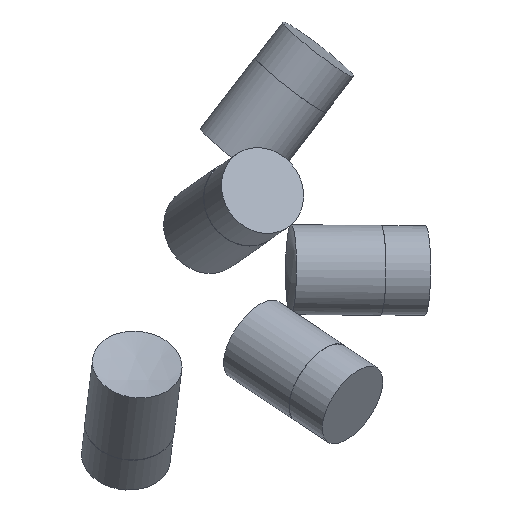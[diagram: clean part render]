
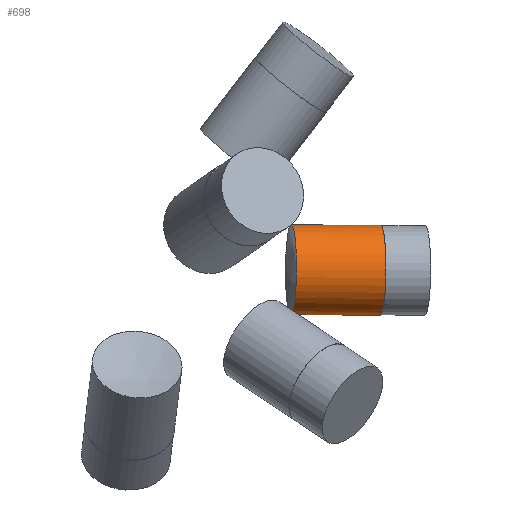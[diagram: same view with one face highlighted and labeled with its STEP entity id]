
A CAD part, front view. The second image highlights one B-rep face of the part: STEP entity #698.
In plain terms, the highlighted cylindrical face has radius 6 mm (diameter 12 mm), a full revolution.
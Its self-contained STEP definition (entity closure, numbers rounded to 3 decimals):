
#33 = SPHERICAL_SURFACE('',#34,20.);
#34 = AXIS2_PLACEMENT_3D('',#35,#36,#37);
#35 = CARTESIAN_POINT('',(0.,0.,0.));
#36 = DIRECTION('',(0.,0.,1.));
#37 = DIRECTION('',(1.,0.,-0.));
#110 = VERTEX_POINT('',#111);
#111 = CARTESIAN_POINT('',(19.256,0.,
    5.403));
#133 = EDGE_CURVE('',#134,#110,#136,.T.);
#134 = VERTEX_POINT('',#135);
#135 = CARTESIAN_POINT('',(18.198,8.296,-0.112)
  );
#136 = SURFACE_CURVE('',#137,(#142,#162),.PCURVE_S1.);
#137 = CIRCLE('',#138,6.);
#138 = AXIS2_PLACEMENT_3D('',#139,#140,#141);
#139 = CARTESIAN_POINT('',(18.934,2.341,
    -0.112));
#140 = DIRECTION('',(0.992,0.123,-0.006)
  );
#141 = DIRECTION('',(-0.123,0.992,0.));
#142 = PCURVE('',#33,#143);
#143 = DEFINITIONAL_REPRESENTATION('',(#144),#161);
#144 = B_SPLINE_CURVE_WITH_KNOTS('',8,(#145,#146,#147,#148,#149,#150,
    #151,#152,#153,#154,#155,#156,#157,#158,#159,#160),.UNSPECIFIED.,.F.
  ,.F.,(9,7,9),(0.,0.988,1.976),.UNSPECIFIED.);
#145 = CARTESIAN_POINT('',(0.428,-0.006));
#146 = CARTESIAN_POINT('',(0.428,0.031));
#147 = CARTESIAN_POINT('',(0.423,0.068));
#148 = CARTESIAN_POINT('',(0.413,0.105));
#149 = CARTESIAN_POINT('',(0.398,0.139));
#150 = CARTESIAN_POINT('',(0.378,0.172));
#151 = CARTESIAN_POINT('',(0.354,0.201));
#152 = CARTESIAN_POINT('',(0.326,0.226));
#153 = CARTESIAN_POINT('',(0.263,0.268));
#154 = CARTESIAN_POINT('',(0.228,0.285));
#155 = CARTESIAN_POINT('',(0.191,0.297));
#156 = CARTESIAN_POINT('',(0.152,0.303));
#157 = CARTESIAN_POINT('',(0.112,0.304));
#158 = CARTESIAN_POINT('',(0.073,0.299));
#159 = CARTESIAN_POINT('',(0.035,0.289));
#160 = CARTESIAN_POINT('',(0.,0.274));
#161 = ( GEOMETRIC_REPRESENTATION_CONTEXT(2) 
PARAMETRIC_REPRESENTATION_CONTEXT() REPRESENTATION_CONTEXT('2D SPACE',''
  ) );
#162 = PCURVE('',#163,#168);
#163 = CYLINDRICAL_SURFACE('',#164,6.);
#164 = AXIS2_PLACEMENT_3D('',#165,#166,#167);
#165 = CARTESIAN_POINT('',(0.,0.,0.));
#166 = DIRECTION('',(0.992,0.123,-0.006)
  );
#167 = DIRECTION('',(-0.123,0.992,0.));
#168 = DEFINITIONAL_REPRESENTATION('',(#169),#173);
#169 = LINE('',#170,#171);
#170 = CARTESIAN_POINT('',(0.,19.079));
#171 = VECTOR('',#172,1.);
#172 = DIRECTION('',(1.,0.));
#173 = ( GEOMETRIC_REPRESENTATION_CONTEXT(2) 
PARAMETRIC_REPRESENTATION_CONTEXT() REPRESENTATION_CONTEXT('2D SPACE',''
  ) );
#175 = EDGE_CURVE('',#176,#134,#178,.T.);
#176 = VERTEX_POINT('',#177);
#177 = CARTESIAN_POINT('',(19.191,0.,
    -5.631));
#178 = SURFACE_CURVE('',#179,(#184,#204),.PCURVE_S1.);
#179 = CIRCLE('',#180,6.);
#180 = AXIS2_PLACEMENT_3D('',#181,#182,#183);
#181 = CARTESIAN_POINT('',(18.934,2.341,
    -0.112));
#182 = DIRECTION('',(0.992,0.123,-0.006)
  );
#183 = DIRECTION('',(-0.123,0.992,0.));
#184 = PCURVE('',#33,#185);
#185 = DEFINITIONAL_REPRESENTATION('',(#186),#203);
#186 = B_SPLINE_CURVE_WITH_KNOTS('',8,(#187,#188,#189,#190,#191,#192,
    #193,#194,#195,#196,#197,#198,#199,#200,#201,#202),.UNSPECIFIED.,.F.
  ,.F.,(9,7,9),(4.309,5.296,6.283),
  .UNSPECIFIED.);
#187 = CARTESIAN_POINT('',(0.,-0.285));
#188 = CARTESIAN_POINT('',(0.035,-0.301));
#189 = CARTESIAN_POINT('',(0.073,-0.311));
#190 = CARTESIAN_POINT('',(0.112,-0.316));
#191 = CARTESIAN_POINT('',(0.152,-0.315));
#192 = CARTESIAN_POINT('',(0.191,-0.308));
#193 = CARTESIAN_POINT('',(0.229,-0.297));
#194 = CARTESIAN_POINT('',(0.263,-0.28));
#195 = CARTESIAN_POINT('',(0.326,-0.238));
#196 = CARTESIAN_POINT('',(0.354,-0.212));
#197 = CARTESIAN_POINT('',(0.379,-0.183));
#198 = CARTESIAN_POINT('',(0.398,-0.151));
#199 = CARTESIAN_POINT('',(0.413,-0.116));
#200 = CARTESIAN_POINT('',(0.423,-0.08));
#201 = CARTESIAN_POINT('',(0.428,-0.043));
#202 = CARTESIAN_POINT('',(0.428,-0.006));
#203 = ( GEOMETRIC_REPRESENTATION_CONTEXT(2) 
PARAMETRIC_REPRESENTATION_CONTEXT() REPRESENTATION_CONTEXT('2D SPACE',''
  ) );
#204 = PCURVE('',#163,#205);
#205 = DEFINITIONAL_REPRESENTATION('',(#206),#210);
#206 = LINE('',#207,#208);
#207 = CARTESIAN_POINT('',(0.,19.079));
#208 = VECTOR('',#209,1.);
#209 = DIRECTION('',(1.,0.));
#210 = ( GEOMETRIC_REPRESENTATION_CONTEXT(2) 
PARAMETRIC_REPRESENTATION_CONTEXT() REPRESENTATION_CONTEXT('2D SPACE',''
  ) );
#237 = EDGE_CURVE('',#110,#176,#238,.T.);
#238 = SURFACE_CURVE('',#239,(#244,#264),.PCURVE_S1.);
#239 = CIRCLE('',#240,6.);
#240 = AXIS2_PLACEMENT_3D('',#241,#242,#243);
#241 = CARTESIAN_POINT('',(18.934,2.341,
    -0.112));
#242 = DIRECTION('',(0.992,0.123,-0.006)
  );
#243 = DIRECTION('',(-0.123,0.992,0.));
#244 = PCURVE('',#33,#245);
#245 = DEFINITIONAL_REPRESENTATION('',(#246),#263);
#246 = B_SPLINE_CURVE_WITH_KNOTS('',8,(#247,#248,#249,#250,#251,#252,
    #253,#254,#255,#256,#257,#258,#259,#260,#261,#262),.UNSPECIFIED.,.F.
  ,.F.,(9,7,9),(1.976,3.142,4.309),
  .UNSPECIFIED.);
#247 = CARTESIAN_POINT('',(6.283,0.274));
#248 = CARTESIAN_POINT('',(6.242,0.256));
#249 = CARTESIAN_POINT('',(6.204,0.231));
#250 = CARTESIAN_POINT('',(6.17,0.2));
#251 = CARTESIAN_POINT('',(6.143,0.164));
#252 = CARTESIAN_POINT('',(6.122,0.124));
#253 = CARTESIAN_POINT('',(6.109,0.082));
#254 = CARTESIAN_POINT('',(6.102,0.038));
#255 = CARTESIAN_POINT('',(6.101,-0.05));
#256 = CARTESIAN_POINT('',(6.108,-0.093));
#257 = CARTESIAN_POINT('',(6.122,-0.136));
#258 = CARTESIAN_POINT('',(6.143,-0.176));
#259 = CARTESIAN_POINT('',(6.17,-0.212));
#260 = CARTESIAN_POINT('',(6.203,-0.243));
#261 = CARTESIAN_POINT('',(6.242,-0.268));
#262 = CARTESIAN_POINT('',(6.283,-0.285));
#263 = ( GEOMETRIC_REPRESENTATION_CONTEXT(2) 
PARAMETRIC_REPRESENTATION_CONTEXT() REPRESENTATION_CONTEXT('2D SPACE',''
  ) );
#264 = PCURVE('',#163,#265);
#265 = DEFINITIONAL_REPRESENTATION('',(#266),#270);
#266 = LINE('',#267,#268);
#267 = CARTESIAN_POINT('',(0.,19.079));
#268 = VECTOR('',#269,1.);
#269 = DIRECTION('',(1.,0.));
#270 = ( GEOMETRIC_REPRESENTATION_CONTEXT(2) 
PARAMETRIC_REPRESENTATION_CONTEXT() REPRESENTATION_CONTEXT('2D SPACE',''
  ) );
#698 = ADVANCED_FACE('',(#699),#163,.T.);
#699 = FACE_BOUND('',#700,.T.);
#700 = EDGE_LOOP('',(#701,#724,#751,#752,#753,#754));
#701 = ORIENTED_EDGE('',*,*,#702,.T.);
#702 = EDGE_CURVE('',#134,#703,#705,.T.);
#703 = VERTEX_POINT('',#704);
#704 = CARTESIAN_POINT('',(30.124,9.77,-0.183
    ));
#705 = SEAM_CURVE('',#706,(#710,#717),.PCURVE_S1.);
#706 = LINE('',#707,#708);
#707 = CARTESIAN_POINT('',(-0.736,5.955,
    0.));
#708 = VECTOR('',#709,1.);
#709 = DIRECTION('',(0.992,0.123,-0.006)
  );
#710 = PCURVE('',#163,#711);
#711 = DEFINITIONAL_REPRESENTATION('',(#712),#716);
#712 = LINE('',#713,#714);
#713 = CARTESIAN_POINT('',(6.283,-0.));
#714 = VECTOR('',#715,1.);
#715 = DIRECTION('',(0.,1.));
#716 = ( GEOMETRIC_REPRESENTATION_CONTEXT(2) 
PARAMETRIC_REPRESENTATION_CONTEXT() REPRESENTATION_CONTEXT('2D SPACE',''
  ) );
#717 = PCURVE('',#163,#718);
#718 = DEFINITIONAL_REPRESENTATION('',(#719),#723);
#719 = LINE('',#720,#721);
#720 = CARTESIAN_POINT('',(0.,-0.));
#721 = VECTOR('',#722,1.);
#722 = DIRECTION('',(0.,1.));
#723 = ( GEOMETRIC_REPRESENTATION_CONTEXT(2) 
PARAMETRIC_REPRESENTATION_CONTEXT() REPRESENTATION_CONTEXT('2D SPACE',''
  ) );
#724 = ORIENTED_EDGE('',*,*,#725,.F.);
#725 = EDGE_CURVE('',#703,#703,#726,.T.);
#726 = SURFACE_CURVE('',#727,(#732,#739),.PCURVE_S1.);
#727 = CIRCLE('',#728,6.);
#728 = AXIS2_PLACEMENT_3D('',#729,#730,#731);
#729 = CARTESIAN_POINT('',(30.861,3.815,-0.183
    ));
#730 = DIRECTION('',(0.992,0.123,-0.006)
  );
#731 = DIRECTION('',(-0.123,0.992,0.));
#732 = PCURVE('',#163,#733);
#733 = DEFINITIONAL_REPRESENTATION('',(#734),#738);
#734 = LINE('',#735,#736);
#735 = CARTESIAN_POINT('',(0.,31.096));
#736 = VECTOR('',#737,1.);
#737 = DIRECTION('',(1.,0.));
#738 = ( GEOMETRIC_REPRESENTATION_CONTEXT(2) 
PARAMETRIC_REPRESENTATION_CONTEXT() REPRESENTATION_CONTEXT('2D SPACE',''
  ) );
#739 = PCURVE('',#740,#745);
#740 = PLANE('',#741);
#741 = AXIS2_PLACEMENT_3D('',#742,#743,#744);
#742 = CARTESIAN_POINT('',(30.861,3.815,-0.183
    ));
#743 = DIRECTION('',(0.992,0.123,-0.006)
  );
#744 = DIRECTION('',(-0.123,0.992,0.));
#745 = DEFINITIONAL_REPRESENTATION('',(#746),#750);
#746 = CIRCLE('',#747,6.);
#747 = AXIS2_PLACEMENT_2D('',#748,#749);
#748 = CARTESIAN_POINT('',(0.,0.));
#749 = DIRECTION('',(1.,0.));
#750 = ( GEOMETRIC_REPRESENTATION_CONTEXT(2) 
PARAMETRIC_REPRESENTATION_CONTEXT() REPRESENTATION_CONTEXT('2D SPACE',''
  ) );
#751 = ORIENTED_EDGE('',*,*,#702,.F.);
#752 = ORIENTED_EDGE('',*,*,#133,.T.);
#753 = ORIENTED_EDGE('',*,*,#237,.T.);
#754 = ORIENTED_EDGE('',*,*,#175,.T.);
